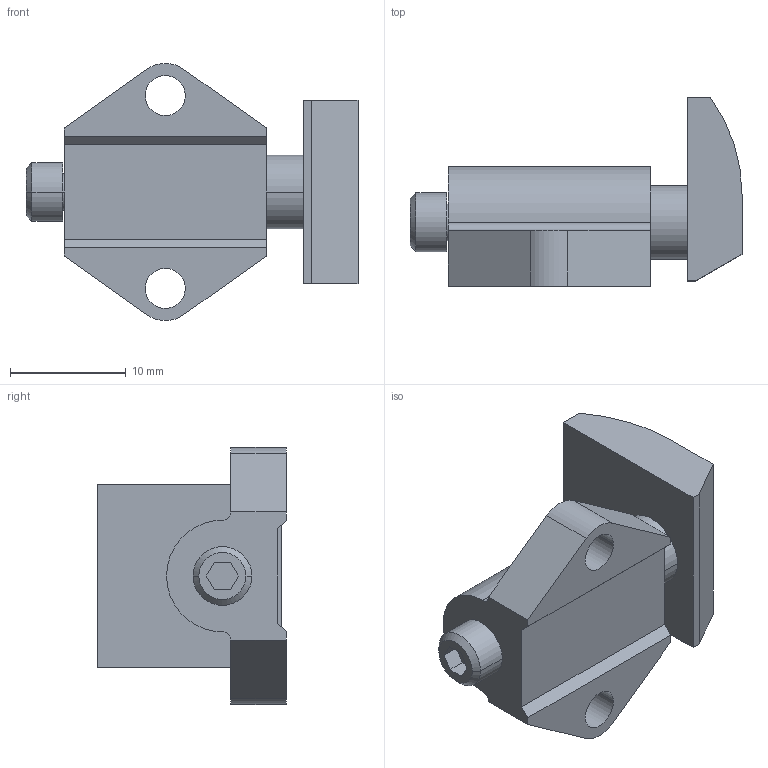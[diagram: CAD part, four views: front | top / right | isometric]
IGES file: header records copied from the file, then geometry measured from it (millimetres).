
Start section:  PTC IGES file: ss88c-3d.igs
Global section: file name: ss88c-3d.igs; native system: Pro/ENGINEER by Parametric Technology Corporation; preprocessor: 2002350; author: chant; organization: Unknown; date: 061026.112159; units: inch
Bounding box: 28.7 x 16.33 x 22.23 mm (x, y, z)
Surface area: 2509.7 mm2 (no closed solid volume)
Topology: 0 solids, 0 shells, 55 faces, 374 edges, 472 vertices
Faces by surface type: bspline 31, revolution 24
